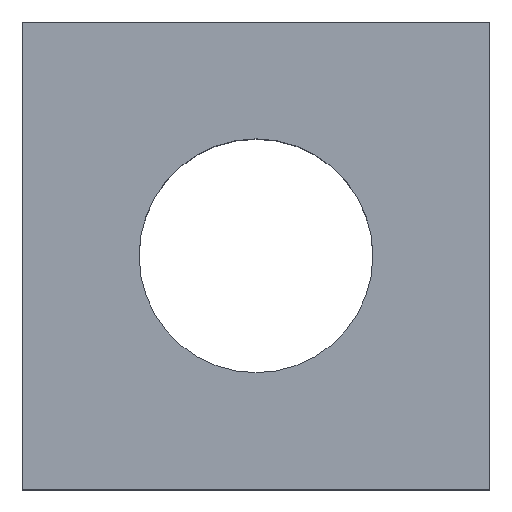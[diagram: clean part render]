
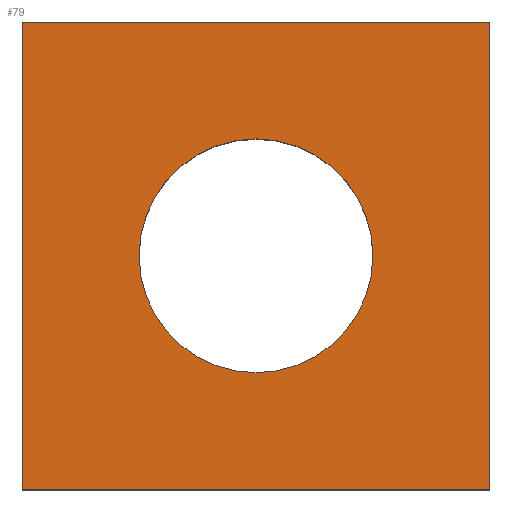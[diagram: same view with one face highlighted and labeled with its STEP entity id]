
A CAD part, top view. The second image highlights one B-rep face of the part: STEP entity #79.
In plain terms, the highlighted free-form (B-spline) face has degree [1, 1] with [2, 2] control points.
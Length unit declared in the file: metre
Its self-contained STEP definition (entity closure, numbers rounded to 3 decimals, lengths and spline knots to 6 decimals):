
#79 = ADVANCED_FACE( '', ( #93, #94 ), #95, .T. );
#93 = FACE_BOUND( '', #139, .T. );
#94 = FACE_OUTER_BOUND( '', #140, .T. );
#95 = B_SPLINE_SURFACE_WITH_KNOTS( '', 1, 1, ( ( #141, #142 ), ( #143, #144 ) ), .UNSPECIFIED., .F., .F., .F., ( 2, 2 ), ( 2, 2 ), ( 0., 1. ), ( 0., 1. ), .UNSPECIFIED. );
#139 = EDGE_LOOP( '', ( #170 ) );
#140 = EDGE_LOOP( '', ( #171, #172, #173, #174 ) );
#141 = CARTESIAN_POINT( '', ( 10.746856, 6.753328, 0.277893 ) );
#142 = CARTESIAN_POINT( '', ( 10.746856, 6.764328, 0.277893 ) );
#143 = CARTESIAN_POINT( '', ( 10.757856, 6.753328, 0.277893 ) );
#144 = CARTESIAN_POINT( '', ( 10.757856, 6.764328, 0.277893 ) );
#170 = ORIENTED_EDGE( '', *, *, #187, .F. );
#171 = ORIENTED_EDGE( '', *, *, #194, .T. );
#172 = ORIENTED_EDGE( '', *, *, #195, .T. );
#173 = ORIENTED_EDGE( '', *, *, #183, .T. );
#174 = ORIENTED_EDGE( '', *, *, #189, .T. );
#183 = EDGE_CURVE( '', #197, #198, #199, .T. );
#187 = EDGE_CURVE( '', #205, #205, #206, .T. );
#189 = EDGE_CURVE( '', #198, #209, #210, .T. );
#194 = EDGE_CURVE( '', #209, #217, #218, .T. );
#195 = EDGE_CURVE( '', #217, #197, #219, .T. );
#197 = VERTEX_POINT( '', #221 );
#198 = VERTEX_POINT( '', #222 );
#199 = LINE( '', #223, #224 );
#205 = VERTEX_POINT( '', #233 );
#206 = CIRCLE( '', #234, 0.0025 );
#209 = VERTEX_POINT( '', #237 );
#210 = LINE( '', #238, #239 );
#217 = VERTEX_POINT( '', #250 );
#218 = LINE( '', #251, #252 );
#219 = LINE( '', #253, #254 );
#221 = CARTESIAN_POINT( '', ( 10.747356, 6.753828, 0.277893 ) );
#222 = CARTESIAN_POINT( '', ( 10.757356, 6.753828, 0.277893 ) );
#223 = CARTESIAN_POINT( '', ( 10.752356, 6.753828, 0.277893 ) );
#224 = VECTOR( '', #257, 1. );
#233 = CARTESIAN_POINT( '', ( 10.754856, 6.758828, 0.277893 ) );
#234 = AXIS2_PLACEMENT_3D( '', #261, #262, #263 );
#237 = CARTESIAN_POINT( '', ( 10.757356, 6.763828, 0.277893 ) );
#238 = CARTESIAN_POINT( '', ( 10.757356, 6.758828, 0.277893 ) );
#239 = VECTOR( '', #267, 1. );
#250 = CARTESIAN_POINT( '', ( 10.747356, 6.763828, 0.277893 ) );
#251 = CARTESIAN_POINT( '', ( 10.752356, 6.763828, 0.277893 ) );
#252 = VECTOR( '', #272, 1. );
#253 = CARTESIAN_POINT( '', ( 10.747356, 6.758828, 0.277893 ) );
#254 = VECTOR( '', #273, 1. );
#257 = DIRECTION( '', ( 1., 0., 0. ) );
#261 = CARTESIAN_POINT( '', ( 10.752356, 6.758828, 0.277893 ) );
#262 = DIRECTION( '', ( 0., 0., 1. ) );
#263 = DIRECTION( '', ( 0., -1., 0. ) );
#267 = DIRECTION( '', ( 0., 1., 0. ) );
#272 = DIRECTION( '', ( -1., 0., 0. ) );
#273 = DIRECTION( '', ( 0., -1., 0. ) );
